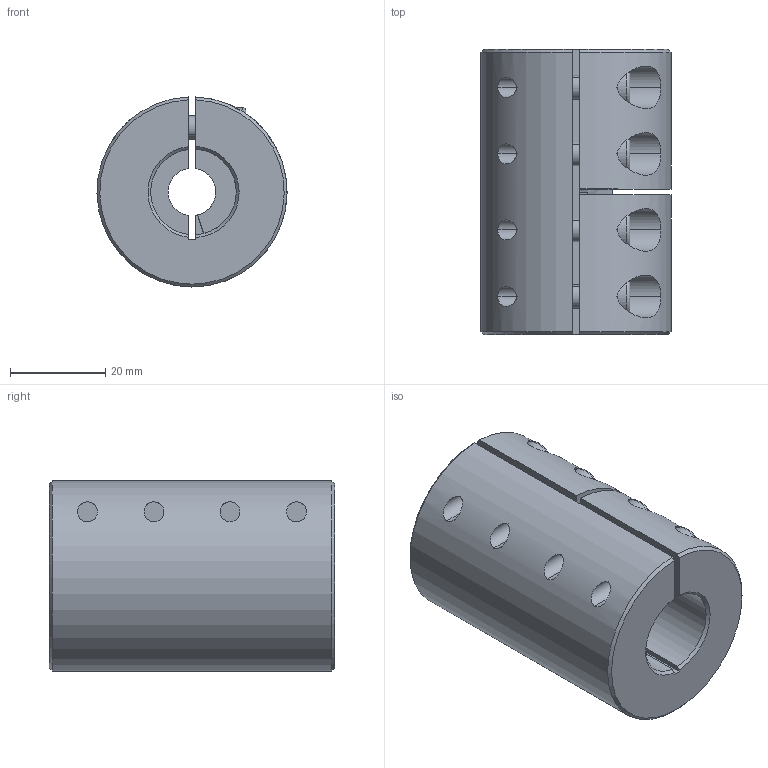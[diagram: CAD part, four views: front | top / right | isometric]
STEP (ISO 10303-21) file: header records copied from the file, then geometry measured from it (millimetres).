
FILE_DESCRIPTION (( 'STEP AP214' ), '1' );
FILE_NAME ('LL-B-D40L60-10-18½¨Ä£.STEP', '2022-07-22T00:53:55', ( '' ), ( '' ), 'SwSTEP 2.0', 'SolidWorks 2022', '' );
FILE_SCHEMA (( 'AUTOMOTIVE_DESIGN' ));
Length unit declared in the file: millimetre
Products named in the file (1): LL-B-D40L60-10-18膘耀
Bounding box: 40 x 60 x 39.99 mm (x, y, z)
Volume: 61917.8 mm3; surface area: 17556.4 mm2
Topology: 1 solids, 1 shells, 182 faces, 463 edges, 291 vertices
Faces by surface type: plane 88, cylinder 71, cone 15, torus 8
Entity records: 6015 total; most frequent: CARTESIAN_POINT 1525, DIRECTION 971, ORIENTED_EDGE 910, EDGE_CURVE 455, AXIS2_PLACEMENT_3D 377, VERTEX_POINT 291, LINE 217, VECTOR 217
